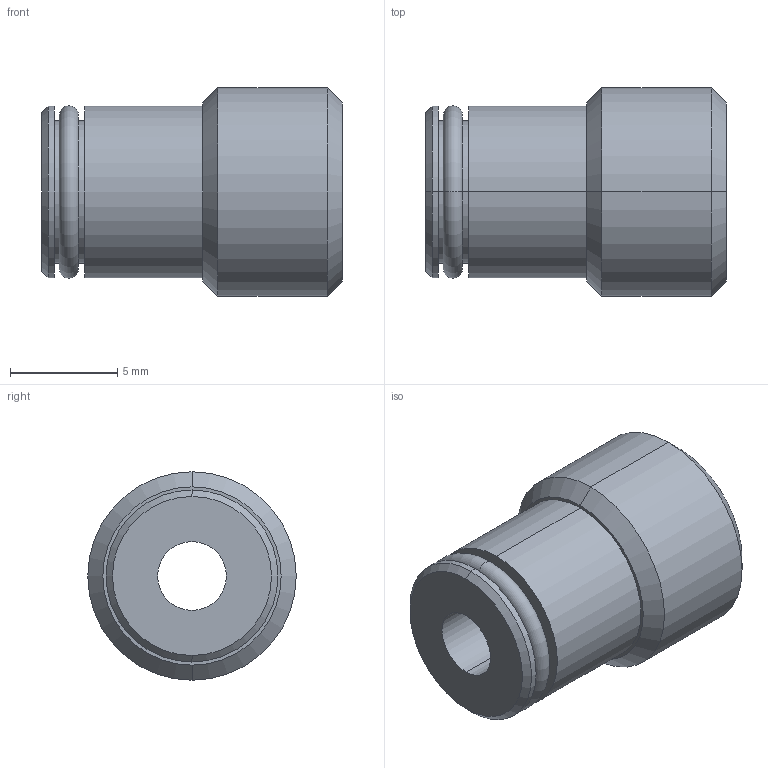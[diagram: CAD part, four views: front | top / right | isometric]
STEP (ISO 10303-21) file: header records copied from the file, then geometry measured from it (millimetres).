
FILE_DESCRIPTION (( 'STEP AP214' ), '1' );
FILE_NAME ('ISIV03.STEP', '2023-09-01T07:59:20', ( '' ), ( '' ), 'SwSTEP 2.0', 'SolidWorks 2014', '' );
FILE_SCHEMA (( 'AUTOMOTIVE_DESIGN' ));
Length unit declared in the file: millimetre
Products named in the file (1): ISIV03
Bounding box: 14 x 9.7 x 9.7 mm (x, y, z)
Volume: 630.3 mm3; surface area: 710.8 mm2
Topology: 1 solids, 1 shells, 43 faces, 92 edges, 54 vertices
Faces by surface type: plane 17, cylinder 14, cone 10, torus 2
Entity records: 1268 total; most frequent: CARTESIAN_POINT 256, DIRECTION 218, ORIENTED_EDGE 184, EDGE_CURVE 92, AXIS2_PLACEMENT_3D 88, VERTEX_POINT 54, EDGE_LOOP 48, CIRCLE 44
